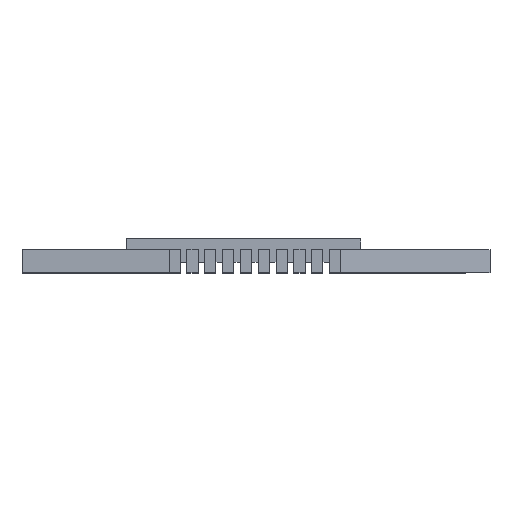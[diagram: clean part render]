
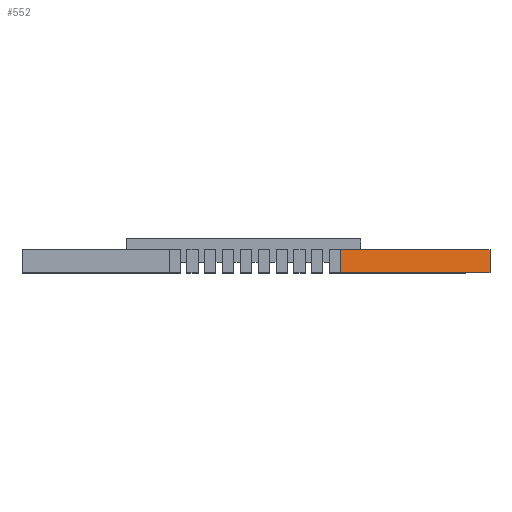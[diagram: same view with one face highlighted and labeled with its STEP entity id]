
A CAD part, top view. The second image highlights one B-rep face of the part: STEP entity #552.
In plain terms, the highlighted planar face has unit normal (0.174, 0, 0.985).
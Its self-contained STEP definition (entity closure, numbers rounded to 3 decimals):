
#392 = ORIENTED_EDGE ( 'NONE', *, *, #21579, .T. ) ;
#552 = ADVANCED_FACE ( 'NONE', ( #20980 ), #17829, .F. ) ;
#1373 = DIRECTION ( 'NONE',  ( 0.985, 0., -0.174 ) ) ;
#2904 = CARTESIAN_POINT ( 'NONE',  ( 192.5, 0., 252.5 ) ) ;
#3026 = EDGE_LOOP ( 'NONE', ( #17549, #13319, #6082, #392 ) ) ;
#4351 = LINE ( 'NONE', #7802, #10157 ) ;
#5765 = VERTEX_POINT ( 'NONE', #13191 ) ;
#6082 = ORIENTED_EDGE ( 'NONE', *, *, #7166, .F. ) ;
#7134 = VECTOR ( 'NONE', #1373, 1000. ) ;
#7166 = EDGE_CURVE ( 'NONE', #5765, #22471, #8907, .T. ) ;
#7802 = CARTESIAN_POINT ( 'NONE',  ( 192.5, 0., 252.5 ) ) ;
#8063 = CARTESIAN_POINT ( 'NONE',  ( 192.5, 52., 252.5 ) ) ;
#8110 = AXIS2_PLACEMENT_3D ( 'NONE', #8063, #22664, #19635 ) ;
#8907 = LINE ( 'NONE', #14299, #7134 ) ;
#9520 = VECTOR ( 'NONE', #19258, 1000. ) ;
#10157 = VECTOR ( 'NONE', #22279, 1000. ) ;
#11671 = LINE ( 'NONE', #21137, #22529 ) ;
#13191 = CARTESIAN_POINT ( 'NONE',  ( 192.5, 52., 252.5 ) ) ;
#13319 = ORIENTED_EDGE ( 'NONE', *, *, #13862, .F. ) ;
#13862 = EDGE_CURVE ( 'NONE', #22471, #19682, #11671, .T. ) ;
#13877 = CARTESIAN_POINT ( 'NONE',  ( 527.335, 0., 193.46 ) ) ;
#14299 = CARTESIAN_POINT ( 'NONE',  ( 192.5, 52., 252.5 ) ) ;
#17549 = ORIENTED_EDGE ( 'NONE', *, *, #19014, .T. ) ;
#17829 = PLANE ( 'NONE',  #8110 ) ;
#19014 = EDGE_CURVE ( 'NONE', #21512, #19682, #4351, .T. ) ;
#19084 = DIRECTION ( 'NONE',  ( 0., -1., 0. ) ) ;
#19258 = DIRECTION ( 'NONE',  ( 0., -1., 0. ) ) ;
#19635 = DIRECTION ( 'NONE',  ( -0.985, 0., 0.174 ) ) ;
#19682 = VERTEX_POINT ( 'NONE', #13877 ) ;
#20980 = FACE_OUTER_BOUND ( 'NONE', #3026, .T. ) ;
#21056 = CARTESIAN_POINT ( 'NONE',  ( 192.5, 52., 252.5 ) ) ;
#21137 = CARTESIAN_POINT ( 'NONE',  ( 527.335, 52., 193.46 ) ) ;
#21512 = VERTEX_POINT ( 'NONE', #2904 ) ;
#21579 = EDGE_CURVE ( 'NONE', #5765, #21512, #23321, .T. ) ;
#22279 = DIRECTION ( 'NONE',  ( 0.985, 0., -0.174 ) ) ;
#22471 = VERTEX_POINT ( 'NONE', #23009 ) ;
#22529 = VECTOR ( 'NONE', #19084, 1000. ) ;
#22664 = DIRECTION ( 'NONE',  ( -0.174, 0., -0.985 ) ) ;
#23009 = CARTESIAN_POINT ( 'NONE',  ( 527.335, 52., 193.46 ) ) ;
#23321 = LINE ( 'NONE', #21056, #9520 ) ;
